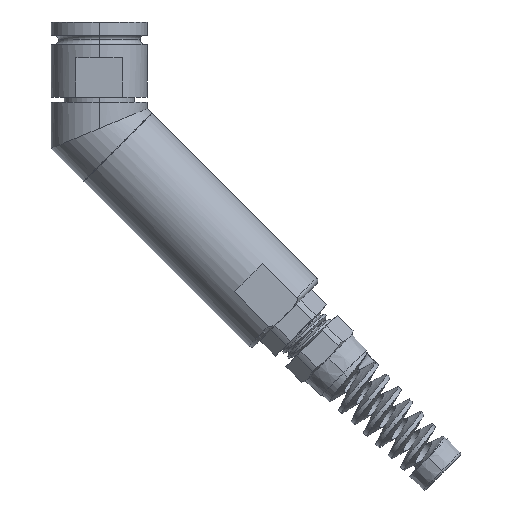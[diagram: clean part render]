
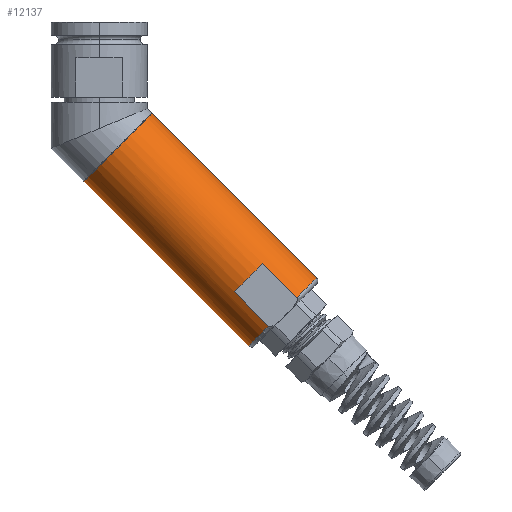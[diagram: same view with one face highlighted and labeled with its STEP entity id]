
A CAD part, left-side view. The second image highlights one B-rep face of the part: STEP entity #12137.
In plain terms, the highlighted cylindrical face has radius 11.62 mm (diameter 23.241 mm), a partial arc.
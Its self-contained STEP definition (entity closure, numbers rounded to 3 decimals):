
#65 = CARTESIAN_POINT ( 'NONE',  ( 0., -12.788, -16.407 ) ) ;
#271 = ORIENTED_EDGE ( 'NONE', *, *, #8047, .T. ) ;
#415 = ORIENTED_EDGE ( 'NONE', *, *, #7435, .F. ) ;
#507 = CARTESIAN_POINT ( 'NONE',  ( 0., -36.038, -56.091 ) ) ;
#730 = LINE ( 'NONE', #11937, #1804 ) ;
#1069 = LINE ( 'NONE', #10534, #11362 ) ;
#1147 = VERTEX_POINT ( 'NONE', #11057 ) ;
#1653 = ORIENTED_EDGE ( 'NONE', *, *, #6640, .F. ) ;
#1685 = CARTESIAN_POINT ( 'NONE',  ( -10.541, -40.841, -67.812 ) ) ;
#1757 = DIRECTION ( 'NONE',  ( 0., -0.707, 0.707 ) ) ;
#1800 = CARTESIAN_POINT ( 'NONE',  ( -10.541, -47.758, -60.894 ) ) ;
#1804 = VECTOR ( 'NONE', #6238, 1000. ) ;
#1828 = VERTEX_POINT ( 'NONE', #8808 ) ;
#1929 = DIRECTION ( 'NONE',  ( 0., 0.707, 0.707 ) ) ;
#2008 = AXIS2_PLACEMENT_3D ( 'NONE', #507, #8924, #6068 ) ;
#2400 = CIRCLE ( 'NONE', #11894, 11.62 ) ;
#2544 = AXIS2_PLACEMENT_3D ( 'NONE', #7282, #11183, #5433 ) ;
#2565 = EDGE_CURVE ( 'NONE', #1147, #11329, #5528, .T. ) ;
#2919 = EDGE_LOOP ( 'NONE', ( #3192, #7555, #4251, #415, #11129, #6993, #271, #1653 ) ) ;
#3015 = VECTOR ( 'NONE', #11420, 1000. ) ;
#3192 = ORIENTED_EDGE ( 'NONE', *, *, #3300, .F. ) ;
#3201 = CARTESIAN_POINT ( 'NONE',  ( -10.541, -39.496, -52.633 ) ) ;
#3212 = EDGE_CURVE ( 'NONE', #10672, #11329, #4644, .T. ) ;
#3213 = FACE_OUTER_BOUND ( 'NONE', #2919, .T. ) ;
#3300 = EDGE_CURVE ( 'NONE', #10672, #1828, #1069, .T. ) ;
#3611 = DIRECTION ( 'NONE',  ( 0., 0.707, 0.707 ) ) ;
#3618 = DIRECTION ( 'NONE',  ( 0., 0.707, 0.707 ) ) ;
#3790 = CIRCLE ( 'NONE', #11697, 11.62 ) ;
#3967 = DIRECTION ( 'NONE',  ( 0., 0.707, 0.707 ) ) ;
#4245 = CARTESIAN_POINT ( 'NONE',  ( 0., -36.083, -72.57 ) ) ;
#4251 = ORIENTED_EDGE ( 'NONE', *, *, #2565, .F. ) ;
#4421 = DIRECTION ( 'NONE',  ( 0., -0.707, -0.707 ) ) ;
#4603 = CARTESIAN_POINT ( 'NONE',  ( 0., -44.3, -64.353 ) ) ;
#4644 = CIRCLE ( 'NONE', #6216, 11.62 ) ;
#4811 = CARTESIAN_POINT ( 'NONE',  ( 0., -12.788, -16.407 ) ) ;
#5433 = DIRECTION ( 'NONE',  ( 0., -0.707, 0.707 ) ) ;
#5471 = VERTEX_POINT ( 'NONE', #1800 ) ;
#5528 = LINE ( 'NONE', #6576, #11559 ) ;
#5580 = CIRCLE ( 'NONE', #2008, 11.62 ) ;
#5597 = CARTESIAN_POINT ( 'NONE',  ( 0., -44.3, -64.353 ) ) ;
#5830 = DIRECTION ( 'NONE',  ( 0., -0.707, 0.707 ) ) ;
#6068 = DIRECTION ( 'NONE',  ( 0., -0.707, 0.707 ) ) ;
#6216 = AXIS2_PLACEMENT_3D ( 'NONE', #5597, #3618, #1757 ) ;
#6238 = DIRECTION ( 'NONE',  ( 0., -0.707, -0.707 ) ) ;
#6566 = EDGE_CURVE ( 'NONE', #5471, #10165, #2400, .T. ) ;
#6576 = CARTESIAN_POINT ( 'NONE',  ( -10.541, -32.579, -59.55 ) ) ;
#6640 = EDGE_CURVE ( 'NONE', #1828, #7320, #3790, .T. ) ;
#6993 = ORIENTED_EDGE ( 'NONE', *, *, #6566, .T. ) ;
#7282 = CARTESIAN_POINT ( 'NONE',  ( 0., -4.571, -24.624 ) ) ;
#7320 = VERTEX_POINT ( 'NONE', #65 ) ;
#7435 = EDGE_CURVE ( 'NONE', #9699, #1147, #5580, .T. ) ;
#7555 = ORIENTED_EDGE ( 'NONE', *, *, #3212, .T. ) ;
#8047 = EDGE_CURVE ( 'NONE', #10165, #7320, #11480, .T. ) ;
#8424 = EDGE_CURVE ( 'NONE', #9699, #5471, #730, .T. ) ;
#8439 = CARTESIAN_POINT ( 'NONE',  ( 0., -52.517, -56.136 ) ) ;
#8808 = CARTESIAN_POINT ( 'NONE',  ( 0., 3.646, -32.841 ) ) ;
#8924 = DIRECTION ( 'NONE',  ( 0., -0.707, -0.707 ) ) ;
#9425 = DIRECTION ( 'NONE',  ( 0., -0.707, 0.707 ) ) ;
#9699 = VERTEX_POINT ( 'NONE', #3201 ) ;
#9724 = CARTESIAN_POINT ( 'NONE',  ( 0., -4.571, -24.624 ) ) ;
#10134 = CYLINDRICAL_SURFACE ( 'NONE', #2544, 11.62 ) ;
#10165 = VERTEX_POINT ( 'NONE', #8439 ) ;
#10534 = CARTESIAN_POINT ( 'NONE',  ( 0., 3.646, -32.841 ) ) ;
#10672 = VERTEX_POINT ( 'NONE', #4245 ) ;
#11057 = CARTESIAN_POINT ( 'NONE',  ( -10.541, -32.579, -59.55 ) ) ;
#11129 = ORIENTED_EDGE ( 'NONE', *, *, #8424, .T. ) ;
#11183 = DIRECTION ( 'NONE',  ( 0., 0.707, 0.707 ) ) ;
#11329 = VERTEX_POINT ( 'NONE', #1685 ) ;
#11362 = VECTOR ( 'NONE', #1929, 1000. ) ;
#11420 = DIRECTION ( 'NONE',  ( 0., 0.707, 0.707 ) ) ;
#11480 = LINE ( 'NONE', #4811, #3015 ) ;
#11559 = VECTOR ( 'NONE', #4421, 1000. ) ;
#11697 = AXIS2_PLACEMENT_3D ( 'NONE', #9724, #3967, #5830 ) ;
#11894 = AXIS2_PLACEMENT_3D ( 'NONE', #4603, #3611, #9425 ) ;
#11937 = CARTESIAN_POINT ( 'NONE',  ( -10.541, -39.496, -52.633 ) ) ;
#12137 = ADVANCED_FACE ( 'NONE', ( #3213 ), #10134, .T. ) ;
